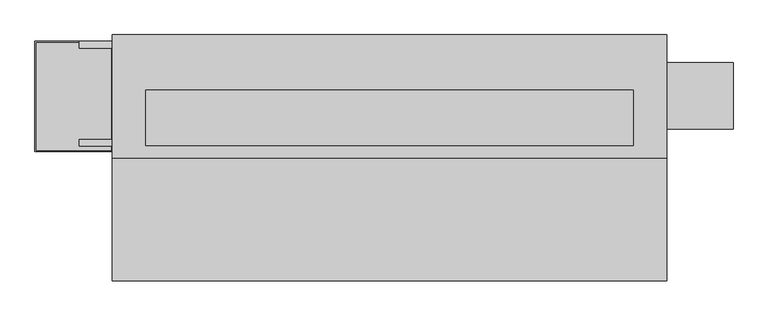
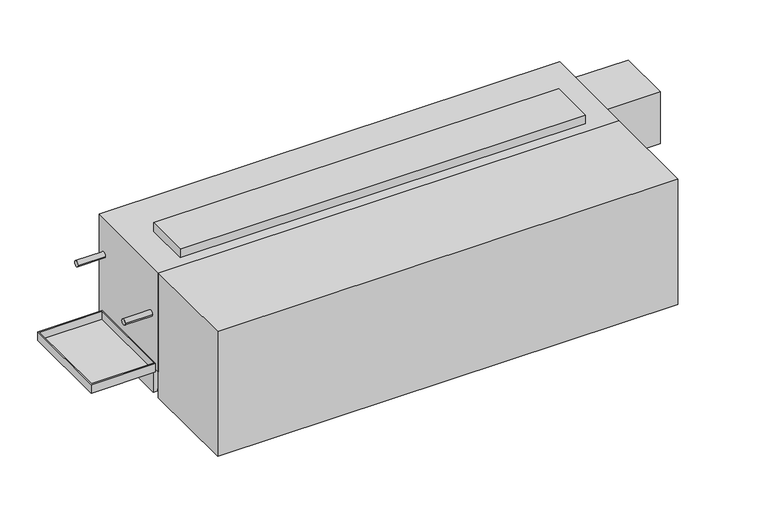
"""IFC4 building model written with IfcOpenShell, lengths in millimetres: proxy geometry, Concealed_Vertical_Low_Boy_Fan_Coil_Unit Fan_-_LHA_-_IEC_-_2-Pipe_LH_2022 : Size 06 - 277v/60Hz/1Ph - 2/1 Coil."""

from ifc_helpers import new_model, si_unit, point, frame, frame_2d, origin, origin_with_axes, place, context, project, spatial, polyline, circle_curve, trimmed, segment, composite_curve, outline, extrude, faceted_brep, source, transform, mapped, element, save


def mechanical_equipment_99cd2a7c(model_context):
    return source(origin(), model_context, "Body", "SolidModel", [
        faceted_brep([(152.4, -252.4125, 92.075), (-25.4, -252.4125, 92.075), (-25.4, -506.4125, 92.075), (152.4, -506.4125, 92.075), (-22.225, -255.5875, 92.075), (149.225, -255.5875, 92.075), (149.225, -503.2375, 92.075), (-22.225, -503.2375, 92.075), (152.4, -252.4125, 66.675), (152.4, -506.4125, 66.675), (-25.4, -506.4125, 66.675), (-25.4, -252.4125, 66.675), (149.225, -255.5875, 69.8497888), (-22.225, -255.5875, 69.8497888), (-22.225, -503.2375, 69.8497888), (149.225, -503.2375, 69.8497888)], [[[0, 1, 2, 3], [4, 5, 6, 7]], [[8, 9, 10, 11]], [[1, 0, 8, 11]], [[2, 1, 11, 10]], [[3, 2, 10, 9]], [[0, 3, 9, 8]], [[12, 13, 14, 15]], [[13, 12, 5, 4]], [[14, 13, 4, 7]], [[15, 14, 7, 6]], [[12, 15, 6, 5]]]),
        extrude(outline(composite_curve([segment(trimmed(circle_curve(frame_2d((63.5, -379.4125)), 9.525), [point((53.975, -379.4125))], [point((73.025, -379.4125))], False, "CARTESIAN"), True, "CONTINUOUS"), segment(trimmed(circle_curve(frame_2d((63.5, -379.4125)), 9.525), [point((73.025, -379.4125))], [point((53.975, -379.4125))], False, "CARTESIAN"), True, "CONTINUOUS")], self_intersect=False)), frame((0.0, 0.0, 41.275), z_axis=(0.0, 0.0, 1.0), x_axis=(1.0, 0.0, 0.0)), (0.0, 0.0, 1.0), 25.4),
        extrude(outline(polyline([(222.6730703, 1306.5868862), (212.725, 1338.7602728), (354.8959244, 1338.7602728), (331.8739183, 1306.5868862), (222.6730703, 1306.5868862)])), frame((0.0, -523.875, 0.0), z_axis=(0.0, 1.0, 0.0), x_axis=(0.0, 0.0, 1.0)), (0.0, 0.0, 1.0), 3.175),
        extrude(outline(polyline([(301.6723557, 1345.5186058), (298.4699632, 1371.6), (327.6988042, 1371.6), (335.7632193, 1345.5186058), (301.6723557, 1345.5186058)])), frame((0.0, -523.875, 0.0), z_axis=(0.0, 1.0, 0.0), x_axis=(0.0, 0.0, 1.0)), (0.0, 0.0, 1.0), 3.175),
        extrude(outline(polyline([(249.8088288, 1371.6), (246.1433279, 1345.5186058), (212.725, 1345.5186058), (221.3592372, 1371.6), (249.8088288, 1371.6)])), frame((0.0, -523.875, 0.0), z_axis=(0.0, 1.0, 0.0), x_axis=(0.0, 0.0, 1.0)), (0.0, 0.0, 1.0), 3.175),
        extrude(outline(polyline([(289.1239903, 1371.6), (291.4058166, 1345.5186058), (255.4682681, 1345.5186058), (258.2095331, 1371.6), (289.1239903, 1371.6)])), frame((0.0, -523.875, 0.0), z_axis=(0.0, 1.0, 0.0), x_axis=(0.0, 0.0, 1.0)), (0.0, 0.0, 1.0), 3.175),
        extrude(outline(polyline([(1346.2, -365.125), (1346.2, -492.125), (228.6, -492.125), (228.6, -365.125), (1346.2, -365.125)])), frame((0.0, 0.0, 365.125), z_axis=(0.0, 0.0, 1.0), x_axis=(1.0, 0.0, 0.0)), (0.0, 0.0, 1.0), 25.4),
        extrude(outline(polyline([(1422.4, -520.7), (152.4, -520.7), (152.4, -238.125), (1422.4, -238.125), (1422.4, -520.7)])), frame((0.0, 0.0, 76.2), z_axis=(0.0, 0.0, 1.0), x_axis=(1.0, 0.0, 0.0)), (0.0, 0.0, 1.0), 288.925),
        extrude(outline(polyline([(1409.7, -495.3), (165.1, -495.3), (165.1, -244.475), (1409.7, -244.475), (1409.7, -495.3)])), origin_with_axes(), (0.0, 0.0, 1.0), 6.35),
        extrude(outline(polyline([(1409.7, -238.125), (1409.7, -244.475), (165.1, -244.475), (165.1, -238.125), (1409.7, -238.125)])), origin_with_axes(), (0.0, 0.0, 1.0), 76.2),
        extrude(outline(polyline([(1422.4, -238.125), (1422.4, -495.3), (1409.7, -495.3), (1409.7, -238.125), (1422.4, -238.125)])), origin_with_axes(), (0.0, 0.0, 1.0), 76.2),
        extrude(outline(polyline([(165.1, -238.125), (165.1, -495.3), (152.4, -495.3), (152.4, -238.125), (165.1, -238.125)])), origin_with_axes(), (0.0, 0.0, 1.0), 76.2),
        extrude(outline(composite_curve([segment(trimmed(circle_curve(frame_2d((-260.35, 260.35)), 7.9375), [point((-252.4125, 260.35))], [point((-268.2875, 260.35))], False, "CARTESIAN"), True, "CONTINUOUS"), segment(trimmed(circle_curve(frame_2d((-260.35, 260.35)), 7.9375), [point((-268.2875, 260.35))], [point((-252.4125, 260.35))], False, "CARTESIAN"), True, "CONTINUOUS")], self_intersect=False)), frame((76.2, 0.0, 0.0), z_axis=(1.0, 0.0, 0.0), x_axis=(0.0, 1.0, 0.0)), (0.0, 0.0, 1.0), 76.2),
        extrude(outline(composite_curve([segment(trimmed(circle_curve(frame_2d((-485.775, 227.0125)), 7.9375), [point((-477.8375, 227.0125))], [point((-493.7125, 227.0125))], False, "CARTESIAN"), True, "CONTINUOUS"), segment(trimmed(circle_curve(frame_2d((-485.775, 227.0125)), 7.9375), [point((-493.7125, 227.0125))], [point((-477.8375, 227.0125))], False, "CARTESIAN"), True, "CONTINUOUS")], self_intersect=False)), frame((76.2, 0.0, 0.0), z_axis=(1.0, 0.0, 0.0), x_axis=(0.0, 1.0, 0.0)), (0.0, 0.0, 1.0), 76.2),
        extrude(outline(polyline([(1422.4, -301.625), (1574.8, -301.625), (1574.8, -454.025), (1422.4, -454.025), (1422.4, -301.625)])), frame((0.0, 0.0, 203.5632719), z_axis=(0.0, 0.0, 1.0), x_axis=(1.0, 0.0, 0.0)), (0.0, 0.0, 1.0), 152.0367281),
        extrude(outline(polyline([(1422.4, -803.275), (152.4, -803.275), (152.4, -520.7), (1422.4, -520.7), (1422.4, -803.275)])), origin_with_axes(), (0.0, 0.0, 1.0), 365.125),
    ])


if __name__ == "__main__":
    model = new_model("IFC4")
    model_context = context("Model", 3, world=origin())
    ifc_project = project(units=[si_unit("LENGTHUNIT", "METRE", prefix="MILLI")], contexts=[model_context])
    site = spatial("IfcSite", under=ifc_project)
    building = spatial("IfcBuilding", under=site)
    placement = place(None, origin())
    mechanical_equipment_shape = mechanical_equipment_99cd2a7c(model_context)
    element("IfcBuildingElementProxy", 1, Name="Concealed_Vertical_Low_Boy_Fan_Coil_Unit Fan_-_LHA_-_IEC_-_2-Pipe_LH_2022 : Size 06 - 277v/60Hz/1Ph - 2/1 Coil", ObjectType="Concealed_Vertical_Low_Boy_Fan_Coil_Unit Fan_-_LHA_-_IEC_-_2-Pipe_LH_2022 : Size 06 - 277v/60Hz/1Ph - 2/1 Coil", at=placement, inside=building, context=model_context, shape_type="MappedRepresentation", body=[
        mapped(mechanical_equipment_shape, transform((0.0, 0.0, 0.0), x_axis=(1.0, 0.0, 0.0), y_axis=(0.0, 1.0, 0.0), z_axis=(0.0, 0.0, 1.0))),
    ])
    save(model, "model.ifc")
